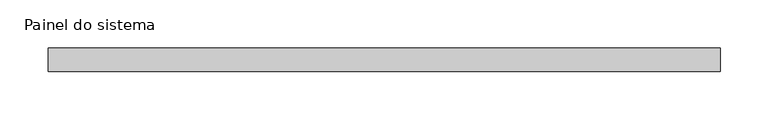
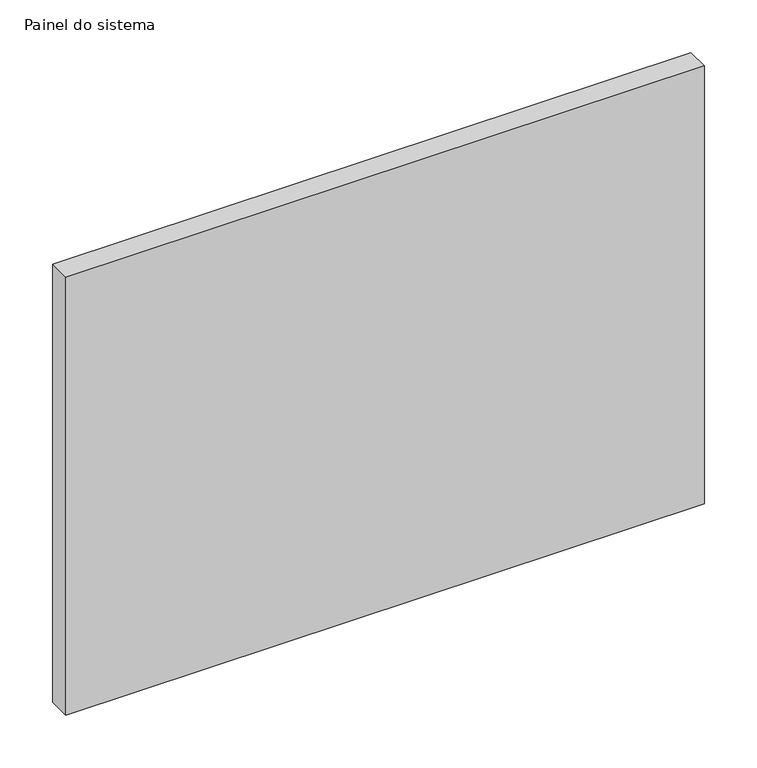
"""IFC4 building model written with IfcOpenShell, lengths in millimetres: plate geometry, Painel do sistema : Envidraçado."""

from ifc_helpers import new_model, si_unit, origin, origin_with_axes, place, context, project, spatial, polyline, outline, extrude, source, transform, mapped, element, save


def painel_do_sistema_ad3d98e0(model_context):
    return source(origin(), model_context, "Body", "SweptSolid", [
        extrude(outline(polyline([(350.0, 24.5), (-350.0, 24.5), (-350.0, 49.5), (350.0, 49.5), (350.0, 24.5)])), origin_with_axes(), (0.0, 0.0, 1.0), 507.5527297),
    ])


if __name__ == "__main__":
    model = new_model("IFC4")
    model_context = context("Model", 3, world=origin())
    ifc_project = project(units=[si_unit("LENGTHUNIT", "METRE", prefix="MILLI")], contexts=[model_context])
    site = spatial("IfcSite", under=ifc_project)
    building = spatial("IfcBuilding", under=site)
    placement = place(None, origin())
    painel_do_sistema_shape = painel_do_sistema_ad3d98e0(model_context)
    element("IfcPlate", 1, ObjectType="Painel do sistema : Envidraçado", at=placement, inside=building, context=model_context, shape_type="MappedRepresentation", body=[
        mapped(painel_do_sistema_shape, transform((0.0, 0.0, 0.0), x_axis=(1.0, 0.0, 0.0), y_axis=(0.0, 1.0, 0.0), z_axis=(0.0, 0.0, 1.0))),
    ])
    save(model, "model.ifc")
